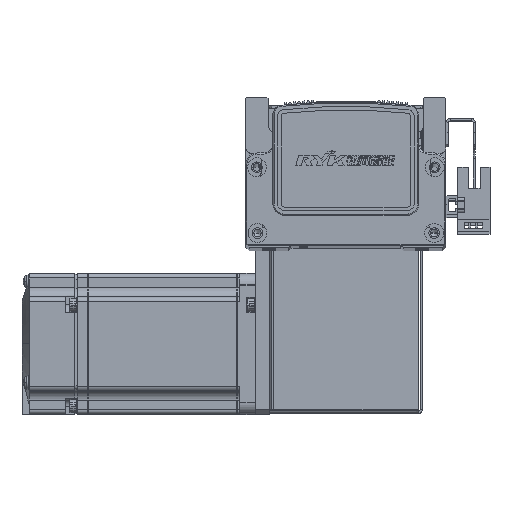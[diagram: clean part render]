
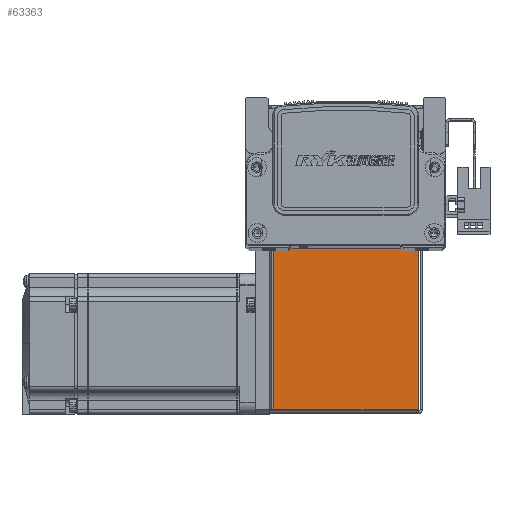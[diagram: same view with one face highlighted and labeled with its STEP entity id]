
A CAD part, top view. The second image highlights one B-rep face of the part: STEP entity #63363.
In plain terms, the highlighted planar face has unit normal (0, 0, 1) as drawn and (0, 0, -1) by its records, which use the part's own axes.
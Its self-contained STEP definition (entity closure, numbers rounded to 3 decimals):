
#10484 = VERTEX_POINT ( 'NONE', #41223 ) ;
#10558 = VERTEX_POINT ( 'NONE', #39914 ) ;
#10564 = VERTEX_POINT ( 'NONE', #39907 ) ;
#10589 = VERTEX_POINT ( 'NONE', #39929 ) ;
#33133 = LINE ( 'NONE', #39200, #33153 ) ;
#33153 = VECTOR ( 'NONE', #39174, 1000. ) ;
#33368 = LINE ( 'NONE', #34275, #33407 ) ;
#33407 = VECTOR ( 'NONE', #34307, 1000. ) ;
#33748 = LINE ( 'NONE', #35020, #33892 ) ;
#33819 = LINE ( 'NONE', #35238, #33896 ) ;
#33892 = VECTOR ( 'NONE', #35061, 1000. ) ;
#33896 = VECTOR ( 'NONE', #35290, 1000. ) ;
#34275 = CARTESIAN_POINT ( 'NONE',  ( 0., 72.5, -35. ) ) ;
#34307 = DIRECTION ( 'NONE',  ( 1., 0., 0. ) ) ;
#35020 = CARTESIAN_POINT ( 'NONE',  ( 32.5, 0.737, -35. ) ) ;
#35061 = DIRECTION ( 'NONE',  ( 1., 0., 0. ) ) ;
#35238 = CARTESIAN_POINT ( 'NONE',  ( -30.793, 0., -35. ) ) ;
#35290 = DIRECTION ( 'NONE',  ( 0., 1., 0. ) ) ;
#37857 = ORIENTED_EDGE ( 'NONE', *, *, #58449, .T. ) ;
#37897 = ORIENTED_EDGE ( 'NONE', *, *, #58570, .T. ) ;
#37910 = ORIENTED_EDGE ( 'NONE', *, *, #58711, .F. ) ;
#37967 = ORIENTED_EDGE ( 'NONE', *, *, #58758, .T. ) ;
#39174 = DIRECTION ( 'NONE',  ( 0., -1., 0. ) ) ;
#39200 = CARTESIAN_POINT ( 'NONE',  ( 30.763, 72.5, -35. ) ) ;
#39907 = CARTESIAN_POINT ( 'NONE',  ( 30.763, 72.5, -35. ) ) ;
#39914 = CARTESIAN_POINT ( 'NONE',  ( 30.763, 0.737, -35. ) ) ;
#39929 = CARTESIAN_POINT ( 'NONE',  ( -30.793, 72.5, -35. ) ) ;
#41223 = CARTESIAN_POINT ( 'NONE',  ( -30.793, 0.737, -35. ) ) ;
#42703 = PLANE ( 'NONE',  #48198 ) ;
#42710 = CARTESIAN_POINT ( 'NONE',  ( 0., 0., -35. ) ) ;
#42733 = DIRECTION ( 'NONE',  ( 0., -1., 0. ) ) ;
#42741 = DIRECTION ( 'NONE',  ( 0., 0., 1. ) ) ;
#43753 = FACE_OUTER_BOUND ( 'NONE', #77538, .T. ) ;
#48198 = AXIS2_PLACEMENT_3D ( 'NONE', #42710, #42741, #42733 ) ;
#58449 = EDGE_CURVE ( 'NONE', #10564, #10558, #33133, .T. ) ;
#58570 = EDGE_CURVE ( 'NONE', #10589, #10564, #33368, .T. ) ;
#58711 = EDGE_CURVE ( 'NONE', #10484, #10558, #33748, .T. ) ;
#58758 = EDGE_CURVE ( 'NONE', #10484, #10589, #33819, .T. ) ;
#63363 = ADVANCED_FACE ( 'NONE', ( #43753 ), #42703, .F. ) ;
#77538 = EDGE_LOOP ( 'NONE', ( #37857, #37910, #37967, #37897 ) ) ;
